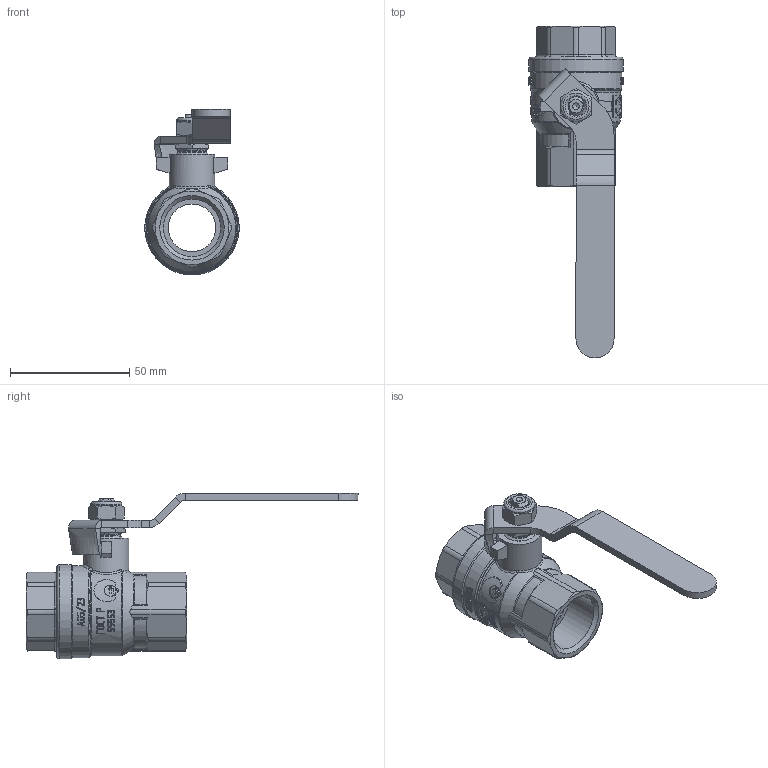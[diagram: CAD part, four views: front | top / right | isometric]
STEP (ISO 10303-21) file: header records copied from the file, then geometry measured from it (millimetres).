
FILE_DESCRIPTION(('STEP AP203'), '1');
FILE_NAME('VT.417.N.05', '', ('UNSPECIFIED'), ('UNSPECIFIED'), 'C3D Converter', 'C3D Toolkit', '');
FILE_SCHEMA(('CONFIG_CONTROL_DESIGN'));
Length unit declared in the file: millimetre
Products named in the file (1): ВР.491812.007.000-01
Bounding box: 39.6 x 139.48 x 69.69 mm (x, y, z)
Volume: 49743.2 mm3; surface area: 20374.2 mm2
Topology: 1 solids, 3 shells, 1083 faces, 2942 edges, 1922 vertices
Faces by surface type: extrusion 496, plane 368, cylinder 111, cone 51, torus 34, bspline 23
Full cylindrical faces by diameter (mm): 0.816 x1, 4 x1, 12.1 x1, 13 x1, 14 x1, 19 x1, 20 x3, 21 x2, 24.118 x2, 38.6 x1, 39.6 x1
Entity records: 50134 total; most frequent: CARTESIAN_POINT 25337, ORIENTED_EDGE 5820, DIRECTION 3668, EDGE_CURVE 2910, VERTEX_POINT 1921, B_SPLINE_CURVE_WITH_KNOTS 1690, VECTOR 1640, EDGE_LOOP 1173
